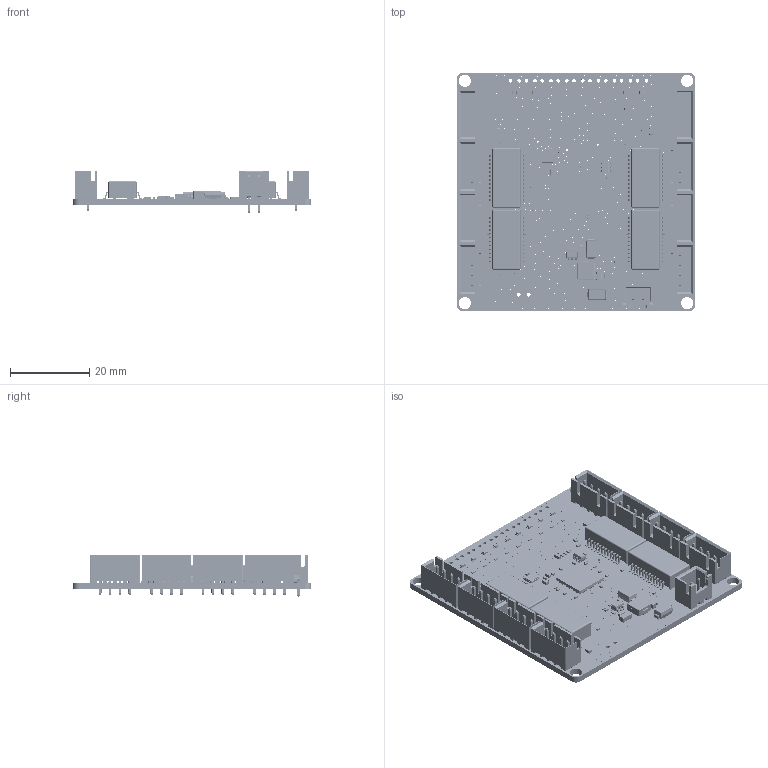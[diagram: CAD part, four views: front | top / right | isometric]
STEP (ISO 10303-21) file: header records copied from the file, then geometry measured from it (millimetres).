
FILE_DESCRIPTION(('Designed by EasyEDA Pro'),'2;1');
FILE_NAME('Open CASCADE Shape Model','2026-07-21T10:52:55',('Author'),( 'Open CASCADE'),'Open CASCADE STEP processor 7.8','Open CASCADE 7.8' ,'Unknown');
FILE_SCHEMA(('AUTOMOTIVE_DESIGN { 1 0 10303 214 1 1 1 1 }'));
Length unit declared in the file: millimetre
Products named in the file (756): EasyEDA PCB Model~ycSK; Board~ycSK; TopCopper~ycSK; BottomCopper~ycSK; TopSilkscreen~ycSK; BottomSilkscreen~ycSK; TopFpcStiffener~ycSK; BottomFpcStiffener~ycSK; C0402~C0402~djMf; C10~C0402~C0402~Ln0N; C15~C0402~C0402~kuww; C2~C0402~C0402~bHFB; C6~C0402~C0402~nxOr; C7~C0402~C0402~HXUj; C8~C0402~C0402~4jGm; C36~C0402~C0402~Jkwo; C40~C0402~C0402~LUb0; C42~C0402~C0402~Ftec; C43~C0402~C0402~0dIv; C45~C0402~C0402~vFAU; C46~C0402~C0402~31gV; C47~C0402~C0402~Cr1c; C50~C0402~C0402~oquZ; C51~C0402~C0402~j98F; C52~C0402~C0402~Oixz; C53~C0402~C0402~2BUV; C54~C0402~C0402~I0f7; C55~C0402~C0402~4Cfv; C60~C0402~C0402~xDuX; C64~C0402~C0402~aplb; C14~C0402~C0402~BPjZ; C12~C0402~C0402~GFhO; C13~C0402~C0402~ROSE; C1~C0402~C0402~H5Ii; C9~C0402~C0402~jBgU; C30~C0402~C0402~i6VO; R0402~R0402_L1.0-W0.5-H0.4~HQS6; R2~R0402~R0402_L1.0-W0.5-H0.4~ZOPy; R3~R0402~R0402_L1.0-W0.5-H0.4~qgnC; R4~R0402~R0402_L1.0-W0.5-H0.4~X6rq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
Assembly tree (828 placements, depth 3):
  EasyEDA PCB Model~ycSK
    Board~ycSK
    TopCopper~ycSK
      TopCopper~ycSK
      TopCopper~ycSK
      TopCopper~ycSK
      TopCopper~ycSK
      TopCopper~ycSK
      TopCopper~ycSK
      TopCopper~ycSK
      TopCopper~ycSK
      TopCopper~ycSK
      TopCopper~ycSK
      TopCopper~ycSK
      TopCopper~ycSK
      TopCopper~ycSK
      TopCopper~ycSK
      TopCopper~ycSK
      TopCopper~ycSK
      TopCopper~ycSK
      TopCopper~ycSK
      TopCopper~ycSK
      TopCopper~ycSK
      TopCopper~ycSK
      TopCopper~ycSK
      TopCopper~ycSK
      TopCopper~ycSK
      TopCopper~ycSK
      TopCopper~ycSK
      TopCopper~ycSK
      TopCopper~ycSK
      TopCopper~ycSK
      TopCopper~ycSK
      TopCopper~ycSK
      TopCopper~ycSK
      TopCopper~ycSK
      TopCopper~ycSK
      TopCopper~ycSK
      TopCopper~ycSK
      TopCopper~ycSK
      TopCopper~ycSK
      TopCopper~ycSK
      TopCopper~ycSK
      TopCopper~ycSK
      TopCopper~ycSK
      TopCopper~ycSK
      TopCopper~ycSK
      TopCopper~ycSK
      TopCopper~ycSK
      TopCopper~ycSK
      TopCopper~ycSK
      TopCopper~ycSK
      TopCopper~ycSK
      TopCopper~ycSK
      TopCopper~ycSK
      TopCopper~ycSK
      TopCopper~ycSK
      TopCopper~ycSK
      TopCopper~ycSK
      TopCopper~ycSK
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Bounding box: 59.97 x 59.97 x 10.5 mm (x, y, z)
Volume: 9486.4 mm3; surface area: 20385.2 mm2
Topology: 372 solids, 1019 shells, 34055 faces, 132631 edges, 101693 vertices
Faces by surface type: plane 19972, bspline 9532, cylinder 3963, sphere 436, torus 136, cone 16
Entity records: 681540 total; most frequent: CARTESIAN_POINT 158274, ORIENTED_EDGE 79717, DIRECTION 78967, EDGE_CURVE 61038, VERTEX_POINT 54593, LINE 49233, VECTOR 49233, AXIS2_PLACEMENT_3D 14867
